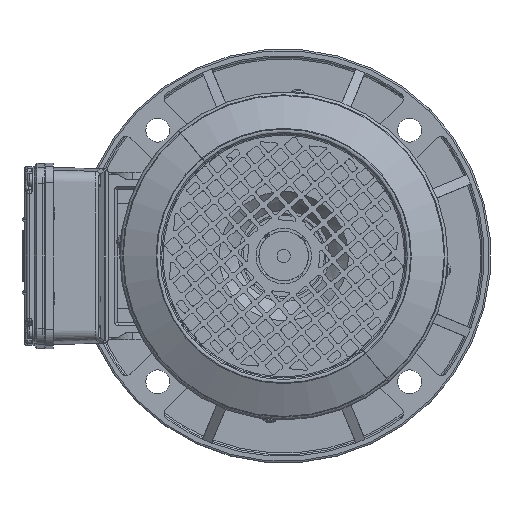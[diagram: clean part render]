
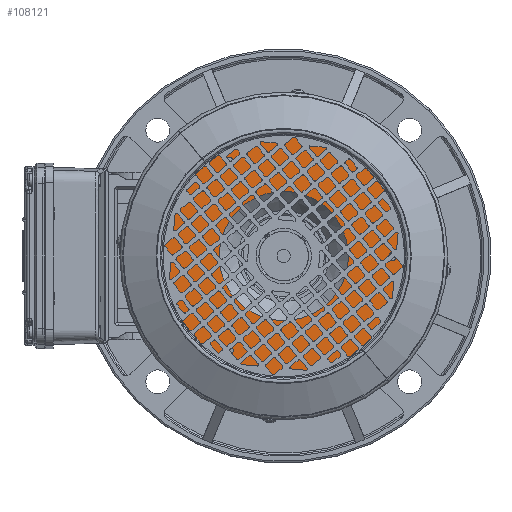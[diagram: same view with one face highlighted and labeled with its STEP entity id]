
A CAD part, left-side view. The second image highlights one B-rep face of the part: STEP entity #108121.
In plain terms, the highlighted planar face has unit normal (-1, 0, 0) as drawn and (0, 1, 0) by its records, which use the part's own axes.
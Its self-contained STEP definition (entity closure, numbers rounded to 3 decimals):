
#173 = CARTESIAN_POINT ( 'NONE',  ( -17.082, 44., 63.751 ) ) ;
#826 = EDGE_CURVE ( 'NONE', #2206, #52472, #88770, .T. ) ;
#1431 = CARTESIAN_POINT ( 'NONE',  ( 0., 44., 0. ) ) ;
#1888 = CARTESIAN_POINT ( 'NONE',  ( -46.669, 44., -49.169 ) ) ;
#2206 = VERTEX_POINT ( 'NONE', #24898 ) ;
#5488 = CIRCLE ( 'NONE', #24517, 2.5 ) ;
#5781 = DIRECTION ( 'NONE',  ( 0., 0., 1. ) ) ;
#6434 = AXIS2_PLACEMENT_3D ( 'NONE', #114867, #60943, #6913 ) ;
#6913 = DIRECTION ( 'NONE',  ( 0., 0., -1. ) ) ;
#9151 = CARTESIAN_POINT ( 'NONE',  ( -17.082, 44., 61.251 ) ) ;
#9234 = DIRECTION ( 'NONE',  ( 0., 0., 1. ) ) ;
#10485 = DIRECTION ( 'NONE',  ( 0., 0., 1. ) ) ;
#11847 = EDGE_LOOP ( 'NONE', ( #95524, #13156 ) ) ;
#11889 = ORIENTED_EDGE ( 'NONE', *, *, #826, .F. ) ;
#12822 = VERTEX_POINT ( 'NONE', #1888 ) ;
#13053 = EDGE_CURVE ( 'NONE', #60764, #12822, #104832, .T. ) ;
#13156 = ORIENTED_EDGE ( 'NONE', *, *, #84058, .F. ) ;
#13303 = DIRECTION ( 'NONE',  ( 0., 1., 0. ) ) ;
#16402 = VERTEX_POINT ( 'NONE', #17465 ) ;
#16497 = CIRCLE ( 'NONE', #37686, 2.5 ) ;
#17465 = CARTESIAN_POINT ( 'NONE',  ( 0., 44., -77.5 ) ) ;
#17870 = ORIENTED_EDGE ( 'NONE', *, *, #74795, .T. ) ;
#19624 = FACE_BOUND ( 'NONE', #37432, .T. ) ;
#19640 = DIRECTION ( 'NONE',  ( 0., 1., 0. ) ) ;
#21130 = EDGE_CURVE ( 'NONE', #65474, #108235, #99496, .T. ) ;
#23543 = CARTESIAN_POINT ( 'NONE',  ( 0., 44., 77.5 ) ) ;
#23812 = ORIENTED_EDGE ( 'NONE', *, *, #108220, .F. ) ;
#24181 = AXIS2_PLACEMENT_3D ( 'NONE', #113732, #59805, #5781 ) ;
#24517 = AXIS2_PLACEMENT_3D ( 'NONE', #173, #63252, #9234 ) ;
#24898 = CARTESIAN_POINT ( 'NONE',  ( -17.082, 44., 66.251 ) ) ;
#25754 = AXIS2_PLACEMENT_3D ( 'NONE', #73662, #19640, #82736 ) ;
#28097 = DIRECTION ( 'NONE',  ( 0., 1., 0. ) ) ;
#29732 = DIRECTION ( 'NONE',  ( 0., 1., 0. ) ) ;
#30656 = CARTESIAN_POINT ( 'NONE',  ( 63.751, 44., -17.082 ) ) ;
#34352 = CARTESIAN_POINT ( 'NONE',  ( -46.669, 44., -46.669 ) ) ;
#36934 = CARTESIAN_POINT ( 'NONE',  ( 0., 44., 39. ) ) ;
#37432 = EDGE_LOOP ( 'NONE', ( #11889, #23812 ) ) ;
#37686 = AXIS2_PLACEMENT_3D ( 'NONE', #34352, #97442, #43463 ) ;
#39738 = DIRECTION ( 'NONE',  ( 0., 0., 1. ) ) ;
#41076 = EDGE_LOOP ( 'NONE', ( #113570, #73379 ) ) ;
#42798 = EDGE_CURVE ( 'NONE', #16402, #111119, #58276, .T. ) ;
#43463 = DIRECTION ( 'NONE',  ( 0., 0., 1. ) ) ;
#43638 = FACE_BOUND ( 'NONE', #74272, .T. ) ;
#43946 = EDGE_LOOP ( 'NONE', ( #17870, #77118 ) ) ;
#44314 = CARTESIAN_POINT ( 'NONE',  ( 0., 44., 0. ) ) ;
#45613 = CARTESIAN_POINT ( 'NONE',  ( -46.669, 44., -44.169 ) ) ;
#46496 = FACE_BOUND ( 'NONE', #41076, .T. ) ;
#52472 = VERTEX_POINT ( 'NONE', #9151 ) ;
#53397 = DIRECTION ( 'NONE',  ( 0., 0., 1. ) ) ;
#53823 = CARTESIAN_POINT ( 'NONE',  ( 0., 44., -39. ) ) ;
#58276 = CIRCLE ( 'NONE', #25754, 77.5 ) ;
#59703 = CIRCLE ( 'NONE', #101159, 2.5 ) ;
#59805 = DIRECTION ( 'NONE',  ( 0., 1., 0. ) ) ;
#60764 = VERTEX_POINT ( 'NONE', #45613 ) ;
#60943 = DIRECTION ( 'NONE',  ( 0., -1., 0. ) ) ;
#63252 = DIRECTION ( 'NONE',  ( 0., 1., 0. ) ) ;
#63418 = CIRCLE ( 'NONE', #112887, 2.5 ) ;
#64315 = EDGE_CURVE ( 'NONE', #12822, #60764, #16497, .T. ) ;
#64497 = DIRECTION ( 'NONE',  ( 0., 1., 0. ) ) ;
#65474 = VERTEX_POINT ( 'NONE', #36934 ) ;
#67322 = CARTESIAN_POINT ( 'NONE',  ( 0., 44., 0. ) ) ;
#70610 = ORIENTED_EDGE ( 'NONE', *, *, #13053, .F. ) ;
#73379 = ORIENTED_EDGE ( 'NONE', *, *, #78520, .F. ) ;
#73662 = CARTESIAN_POINT ( 'NONE',  ( 0., 44., 0. ) ) ;
#74272 = EDGE_LOOP ( 'NONE', ( #70610, #104633 ) ) ;
#74795 = EDGE_CURVE ( 'NONE', #111119, #16402, #100289, .T. ) ;
#76387 = DIRECTION ( 'NONE',  ( 0., 0., 1. ) ) ;
#77118 = ORIENTED_EDGE ( 'NONE', *, *, #42798, .T. ) ;
#78520 = EDGE_CURVE ( 'NONE', #108235, #65474, #101117, .T. ) ;
#81063 = CARTESIAN_POINT ( 'NONE',  ( 63.751, 44., -19.582 ) ) ;
#82138 = CARTESIAN_POINT ( 'NONE',  ( 63.751, 44., -17.082 ) ) ;
#82736 = DIRECTION ( 'NONE',  ( 0., 0., 1. ) ) ;
#83707 = CARTESIAN_POINT ( 'NONE',  ( -17.082, 44., 63.751 ) ) ;
#84058 = EDGE_CURVE ( 'NONE', #100707, #106322, #59703, .T. ) ;
#84628 = AXIS2_PLACEMENT_3D ( 'NONE', #67322, #13303, #76387 ) ;
#86001 = AXIS2_PLACEMENT_3D ( 'NONE', #1431, #64497, #10485 ) ;
#86372 = PLANE ( 'NONE',  #6434 ) ;
#88770 = CIRCLE ( 'NONE', #105524, 2.5 ) ;
#89587 = CARTESIAN_POINT ( 'NONE',  ( 63.751, 44., -14.582 ) ) ;
#91172 = DIRECTION ( 'NONE',  ( 0., 0., 1. ) ) ;
#92775 = DIRECTION ( 'NONE',  ( 0., 0., 1. ) ) ;
#93715 = DIRECTION ( 'NONE',  ( 0., 1., 0. ) ) ;
#95524 = ORIENTED_EDGE ( 'NONE', *, *, #107839, .F. ) ;
#97442 = DIRECTION ( 'NONE',  ( 0., 1., 0. ) ) ;
#99496 = CIRCLE ( 'NONE', #86001, 39. ) ;
#100289 = CIRCLE ( 'NONE', #84628, 77.5 ) ;
#100707 = VERTEX_POINT ( 'NONE', #81063 ) ;
#101117 = CIRCLE ( 'NONE', #113580, 39. ) ;
#101159 = AXIS2_PLACEMENT_3D ( 'NONE', #30656, #93715, #39738 ) ;
#104633 = ORIENTED_EDGE ( 'NONE', *, *, #64315, .F. ) ;
#104832 = CIRCLE ( 'NONE', #24181, 2.5 ) ;
#105524 = AXIS2_PLACEMENT_3D ( 'NONE', #83707, #29732, #92775 ) ;
#106322 = VERTEX_POINT ( 'NONE', #89587 ) ;
#107314 = DIRECTION ( 'NONE',  ( 0., 1., 0. ) ) ;
#107839 = EDGE_CURVE ( 'NONE', #106322, #100707, #63418, .T. ) ;
#108121 = ADVANCED_FACE ( 'NONE', ( #43638, #19624, #115505, #46496, #112679 ), #86372, .F. ) ;
#108220 = EDGE_CURVE ( 'NONE', #52472, #2206, #5488, .T. ) ;
#108235 = VERTEX_POINT ( 'NONE', #53823 ) ;
#111119 = VERTEX_POINT ( 'NONE', #23543 ) ;
#112679 = FACE_OUTER_BOUND ( 'NONE', #43946, .T. ) ;
#112887 = AXIS2_PLACEMENT_3D ( 'NONE', #82138, #28097, #91172 ) ;
#113570 = ORIENTED_EDGE ( 'NONE', *, *, #21130, .F. ) ;
#113580 = AXIS2_PLACEMENT_3D ( 'NONE', #44314, #107314, #53397 ) ;
#113732 = CARTESIAN_POINT ( 'NONE',  ( -46.669, 44., -46.669 ) ) ;
#114867 = CARTESIAN_POINT ( 'NONE',  ( 39., 44., 0. ) ) ;
#115505 = FACE_BOUND ( 'NONE', #11847, .T. ) ;
